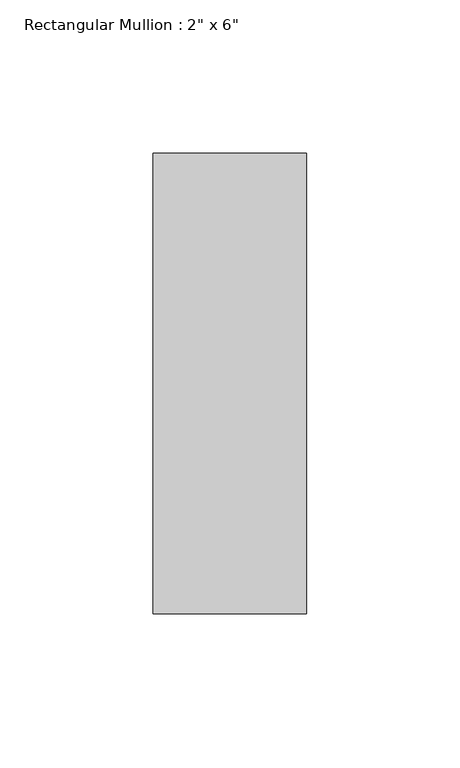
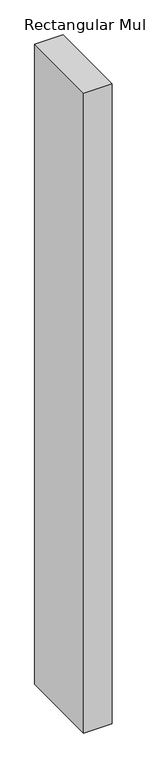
"""IFC4 building model written with IfcOpenShell, lengths in millimetres: member geometry."""

from ifc_helpers import new_model, si_unit, frame, origin, place, context, project, spatial, polyline, outline, extrude, source, transform, mapped, element, save


def member_7943b8e0(model_context):
    return source(origin(), model_context, "Body", "SweptSolid", [
        extrude(outline(polyline([(25.0, 150.0), (25.0, 0.0), (-25.0, 0.0), (-25.0, 150.0), (25.0, 150.0)])), frame((0.0, 0.0, -1194.9999996), z_axis=(0.0, 0.0, 1.0), x_axis=(1.0, 0.0, 0.0)), (0.0, 0.0, 1.0), 1194.9999996),
    ])


if __name__ == "__main__":
    model = new_model("IFC4")
    model_context = context("Model", 3, world=origin())
    ifc_project = project(units=[si_unit("LENGTHUNIT", "METRE", prefix="MILLI")], contexts=[model_context])
    site = spatial("IfcSite", under=ifc_project)
    building = spatial("IfcBuilding", under=site)
    placement = place(None, origin())
    member_shape = member_7943b8e0(model_context)
    element("IfcMember", 1, ObjectType="Rectangular Mullion : 2\" x 6\"", at=placement, inside=building, context=model_context, shape_type="MappedRepresentation", body=[
        mapped(member_shape, transform((0.0, 0.0, 0.0), x_axis=(1.0, 0.0, 0.0), y_axis=(0.0, 1.0, 0.0), z_axis=(0.0, 0.0, 1.0))),
    ])
    save(model, "model.ifc")
